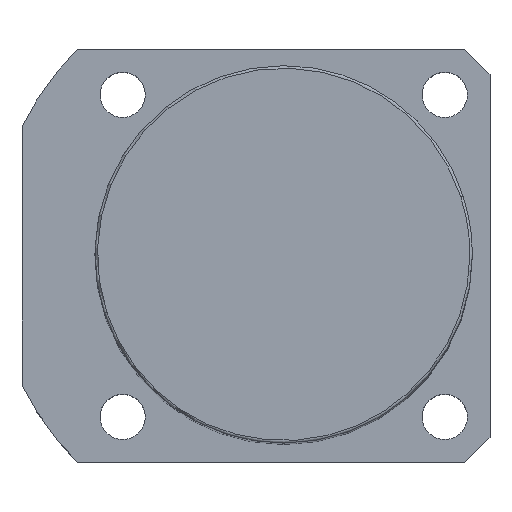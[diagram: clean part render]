
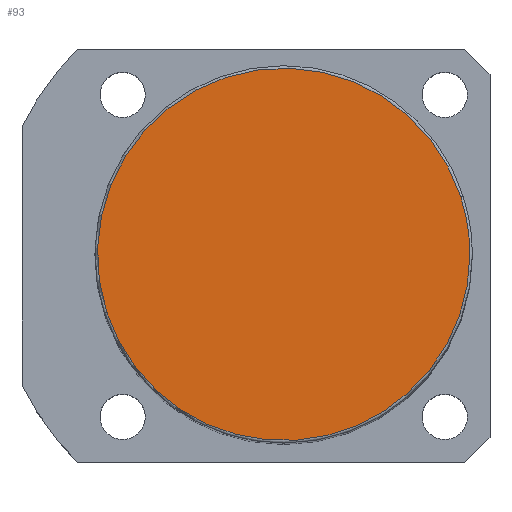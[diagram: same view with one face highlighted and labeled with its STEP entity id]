
A CAD part, top view. The second image highlights one B-rep face of the part: STEP entity #93.
In plain terms, the highlighted planar face has unit normal (0, 0, 1).
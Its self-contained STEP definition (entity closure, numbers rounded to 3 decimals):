
#16=CARTESIAN_POINT('',(35.189,11.434,183.0));
#17=VERTEX_POINT('',#16);
#45=CARTESIAN_POINT('',(-35.189,-11.434,183.0));
#46=VERTEX_POINT('',#45);
#54=CARTESIAN_POINT('',(0.0,0.0,183.0));
#55=DIRECTION('',(0.0,0.0,1.0));
#56=DIRECTION('',(1.0,0.0,0.0));
#57=AXIS2_PLACEMENT_3D('',#54,#55,#56);
#58=CIRCLE('',#57,37.0);
#59=EDGE_CURVE('no 890',#17,#46,#58,.T.);
#69=CARTESIAN_POINT('',(37.0,0.0,183.0));
#70=VERTEX_POINT('',#69);
#71=CARTESIAN_POINT('',(0.0,0.0,183.0));
#72=DIRECTION('',(0.0,0.0,1.0));
#73=DIRECTION('',(1.0,0.0,0.0));
#74=AXIS2_PLACEMENT_3D('',#71,#72,#73);
#75=CIRCLE('',#74,37.0);
#76=EDGE_CURVE('no 899',#70,#17,#75,.T.);
#77=ORIENTED_EDGE('',*,*,#76,.T.);
#78=ORIENTED_EDGE('',*,*,#59,.T.);
#79=CARTESIAN_POINT('',(0.0,0.0,183.0));
#80=DIRECTION('',(0.0,0.0,1.0));
#81=DIRECTION('',(1.0,0.0,0.0));
#82=AXIS2_PLACEMENT_3D('',#79,#80,#81);
#83=CIRCLE('',#82,37.0);
#84=EDGE_CURVE('no 905',#46,#70,#83,.T.);
#85=ORIENTED_EDGE('',*,*,#84,.T.);
#86=EDGE_LOOP('',(#77,#78,#85));
#87=FACE_OUTER_BOUND('',#86,.T.);
#88=CARTESIAN_POINT('',(0.0,0.0,183.0));
#89=DIRECTION('',(0.0,0.0,1.0));
#90=DIRECTION('',(1.0,0.0,0.0));
#91=AXIS2_PLACEMENT_3D('',#88,#89,#90);
#92=PLANE('',#91);
#93=ADVANCED_FACE('no 892',(#87),#92,.T.);
